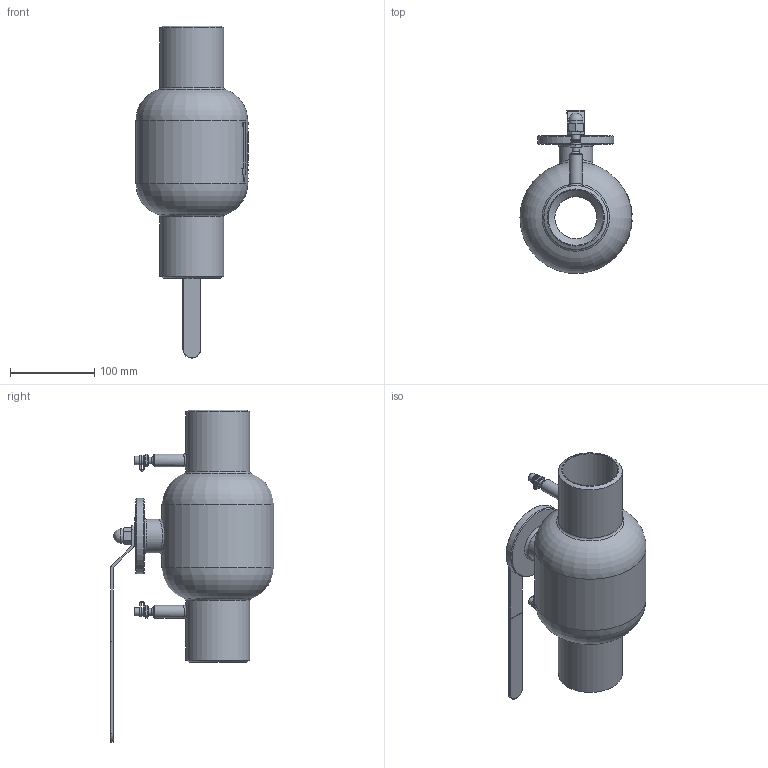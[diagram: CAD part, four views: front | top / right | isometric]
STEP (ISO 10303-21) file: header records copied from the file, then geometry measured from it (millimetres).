
FILE_DESCRIPTION(('STEP AP214'), '1');
FILE_NAME('BVR3232P-SP-W-H Êðàí øàðîâîé ðåãóëèðóþùèé DN.ru Äó65 Py16', '', ('UNSPECIFIED'), ('UNSPECIFIED'), 'C3D Converter', 'C3D Toolkit', '');
FILE_SCHEMA(('AUTOMOTIVE_DESIGN { 1 0 10303 214 3 1 1}'));
Length unit declared in the file: millimetre
Products named in the file (1): BVR3232P-SP-W-H
Bounding box: 133.44 x 194.5 x 395 mm (x, y, z)
Volume: 1755842.6 mm3; surface area: 200412.7 mm2
Topology: 1 solids, 1 shells, 842 faces, 2171 edges, 1439 vertices
Faces by surface type: plane 411, bspline 190, extrusion 127, cylinder 86, cone 18, torus 9, sphere 1
Full cylindrical faces by diameter (mm): 8 x10, 10 x4, 12 x1, 15 x2, 17 x1, 40 x1, 50 x1, 66 x2, 76 x2, 90 x1, 133 x1
Entity records: 87435 total; most frequent: CARTESIAN_POINT 67600, ORIENTED_EDGE 4232, DIRECTION 2730, EDGE_CURVE 2116, VERTEX_POINT 1437, VECTOR 1188, LINE 1061, EDGE_LOOP 1009
